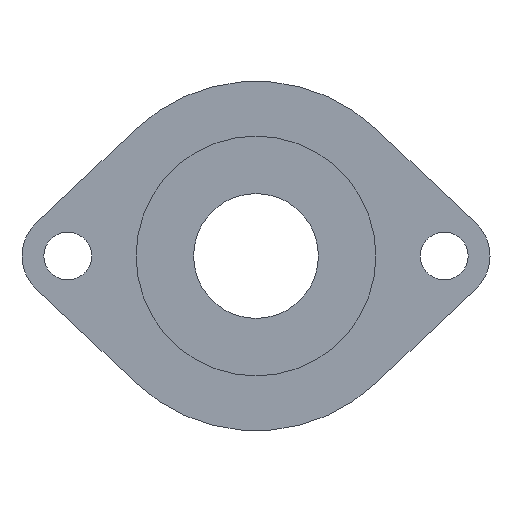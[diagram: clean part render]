
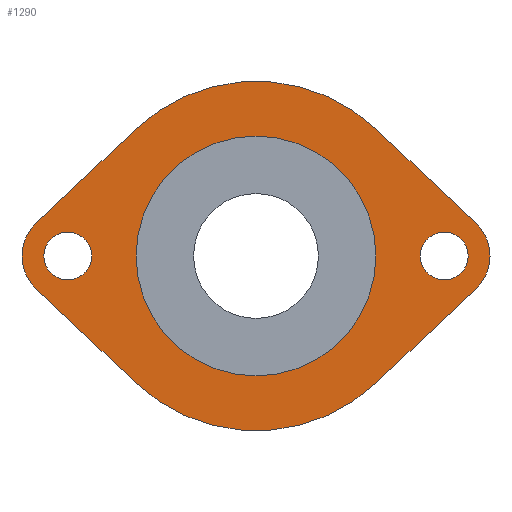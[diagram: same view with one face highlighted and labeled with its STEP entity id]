
A CAD part, left-side view. The second image highlights one B-rep face of the part: STEP entity #1290.
In plain terms, the highlighted planar face has unit normal (-1, 0, 0).
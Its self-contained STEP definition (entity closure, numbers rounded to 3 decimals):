
#10=CARTESIAN_POINT('',(-11.4,71.819,0.));
#20=DIRECTION('',(-1.,0.,0.));
#30=DIRECTION('',(0.,1.,0.));
#40=AXIS2_PLACEMENT_3D('',#10,#20,#30);
#50=PLANE('',#40);
#60=CARTESIAN_POINT('',(-11.4,0.,57.655));
#70=DIRECTION('',(0.,0.728,-0.685));
#80=VECTOR('',#70,1.);
#90=LINE('',#60,#80);
#100=CARTESIAN_POINT('',(-11.4,28.773,30.596));
#110=VERTEX_POINT('',#100);
#120=CARTESIAN_POINT('',(-11.4,52.786,8.013));
#130=VERTEX_POINT('',#120);
#140=EDGE_CURVE('',#110,#130,#90,.T.);
#150=ORIENTED_EDGE('',*,*,#140,.T.);
#160=CARTESIAN_POINT('',(-11.4,0.,
0.));
#170=DIRECTION('',(-1.,0.,0.));
#180=DIRECTION('',(0.,0.685,0.728));
#190=AXIS2_PLACEMENT_3D('',#160,#170,#180);
#200=CIRCLE('',#190,42.);
#210=CARTESIAN_POINT('',(-11.4,-28.773,30.596));
#220=VERTEX_POINT('',#210);
#230=EDGE_CURVE('',#220,#110,#200,.T.);
#240=ORIENTED_EDGE('',*,*,#230,.T.);
#250=CARTESIAN_POINT('',(-11.4,0.,57.655));
#260=DIRECTION('',(0.,0.728,0.685));
#270=VECTOR('',#260,1.);
#280=LINE('',#250,#270);
#290=CARTESIAN_POINT('',(-11.4,-52.786,8.013));
#300=VERTEX_POINT('',#290);
#310=EDGE_CURVE('',#300,#220,#280,.T.);
#320=ORIENTED_EDGE('',*,*,#310,.T.);
#330=CARTESIAN_POINT('',(-11.4,-45.25,0.));
#340=DIRECTION('',(-1.,0.,0.));
#350=DIRECTION('',(0.,-0.685,0.728));
#360=AXIS2_PLACEMENT_3D('',#330,#340,#350);
#370=CIRCLE('',#360,11.);
#380=CARTESIAN_POINT('',(-11.4,-52.786,-8.013));
#390=VERTEX_POINT('',#380);
#400=EDGE_CURVE('',#390,#300,#370,.T.);
#410=ORIENTED_EDGE('',*,*,#400,.T.);
#420=CARTESIAN_POINT('',(-11.4,0.,-57.655));
#430=DIRECTION('',(0.,-0.728,0.685));
#440=VECTOR('',#430,1.);
#450=LINE('',#420,#440);
#460=CARTESIAN_POINT('',(-11.4,-28.773,-30.596));
#470=VERTEX_POINT('',#460);
#480=EDGE_CURVE('',#470,#390,#450,.T.);
#490=ORIENTED_EDGE('',*,*,#480,.T.);
#500=CARTESIAN_POINT('',(-11.4,0.,0.)
);
#510=DIRECTION('',(-1.,0.,0.));
#520=DIRECTION('',(0.,-0.685,-0.728));
#530=AXIS2_PLACEMENT_3D('',#500,#510,#520);
#540=CIRCLE('',#530,42.);
#550=CARTESIAN_POINT('',(-11.4,28.773,-30.596));
#560=VERTEX_POINT('',#550);
#570=EDGE_CURVE('',#560,#470,#540,.T.);
#580=ORIENTED_EDGE('',*,*,#570,.T.);
#590=CARTESIAN_POINT('',(-11.4,0.,-57.655));
#600=DIRECTION('',(0.,-0.728,-0.685));
#610=VECTOR('',#600,1.);
#620=LINE('',#590,#610);
#630=CARTESIAN_POINT('',(-11.4,52.786,-8.013));
#640=VERTEX_POINT('',#630);
#650=EDGE_CURVE('',#640,#560,#620,.T.);
#660=ORIENTED_EDGE('',*,*,#650,.T.);
#670=CARTESIAN_POINT('',(-11.4,45.25,0.));
#680=DIRECTION('',(-1.,0.,0.));
#690=DIRECTION('',(0.,0.685,-0.728));
#700=AXIS2_PLACEMENT_3D('',#670,#680,#690);
#710=CIRCLE('',#700,11.);
#720=EDGE_CURVE('',#130,#640,#710,.T.);
#730=ORIENTED_EDGE('',*,*,#720,.T.);
#740=EDGE_LOOP('',(#730,#660,#580,#490,#410,#320,#240,#150));
#750=FACE_OUTER_BOUND('',#740,.T.);
#760=CARTESIAN_POINT('',(-11.4,-45.25,0.));
#770=DIRECTION('',(-1.,0.,0.));
#780=DIRECTION('',(0.,0.,-1.));
#790=AXIS2_PLACEMENT_3D('',#760,#770,#780);
#800=CIRCLE('',#790,5.75);
#810=CARTESIAN_POINT('',(-11.4,-45.25,-5.75));
#820=VERTEX_POINT('',#810);
#830=CARTESIAN_POINT('',(-11.4,-45.25,5.75));
#840=VERTEX_POINT('',#830);
#850=EDGE_CURVE('',#820,#840,#800,.T.);
#860=ORIENTED_EDGE('',*,*,#850,.F.);
#870=EDGE_CURVE('',#840,#820,#800,.T.);
#880=ORIENTED_EDGE('',*,*,#870,.F.);
#890=EDGE_LOOP('',(#880,#860));
#900=FACE_BOUND('',#890,.T.);
#910=CARTESIAN_POINT('',(-11.4,0.,0.));
#920=DIRECTION('',(-1.,0.,0.));
#930=DIRECTION('',(0.,1.,0.));
#940=AXIS2_PLACEMENT_3D('',#910,#920,#930);
#950=CIRCLE('',#940,28.828);
#960=CARTESIAN_POINT('',(-11.4,28.828,0.));
#970=VERTEX_POINT('',#960);
#980=CARTESIAN_POINT('',(-11.4,0.,-28.828))
;
#990=VERTEX_POINT('',#980);
#1000=EDGE_CURVE('',#970,#990,#950,.T.);
#1010=ORIENTED_EDGE('',*,*,#1000,.F.);
#1020=CARTESIAN_POINT('',(-11.4,-28.828,0.));
#1030=VERTEX_POINT('',#1020);
#1040=EDGE_CURVE('',#990,#1030,#950,.T.);
#1050=ORIENTED_EDGE('',*,*,#1040,.F.);
#1060=CARTESIAN_POINT('',(-11.4,0.,28.828))
;
#1070=VERTEX_POINT('',#1060);
#1080=EDGE_CURVE('',#1030,#1070,#950,.T.);
#1090=ORIENTED_EDGE('',*,*,#1080,.F.);
#1100=EDGE_CURVE('',#1070,#970,#950,.T.);
#1110=ORIENTED_EDGE('',*,*,#1100,.F.);
#1120=EDGE_LOOP('',(#1110,#1090,#1050,#1010));
#1130=FACE_BOUND('',#1120,.T.);
#1140=CARTESIAN_POINT('',(-11.4,45.25,0.));
#1150=DIRECTION('',(-1.,0.,0.));
#1160=DIRECTION('',(0.,0.,-1.));
#1170=AXIS2_PLACEMENT_3D('',#1140,#1150,#1160);
#1180=CIRCLE('',#1170,5.75);
#1190=CARTESIAN_POINT('',(-11.4,45.25,5.75));
#1200=VERTEX_POINT('',#1190);
#1210=CARTESIAN_POINT('',(-11.4,45.25,-5.75));
#1220=VERTEX_POINT('',#1210);
#1230=EDGE_CURVE('',#1200,#1220,#1180,.T.);
#1240=ORIENTED_EDGE('',*,*,#1230,.F.);
#1250=EDGE_CURVE('',#1220,#1200,#1180,.T.);
#1260=ORIENTED_EDGE('',*,*,#1250,.F.);
#1270=EDGE_LOOP('',(#1260,#1240));
#1280=FACE_BOUND('',#1270,.T.);
#1290=ADVANCED_FACE('',(#750,#900,#1130,#1280),#50,.T.);
